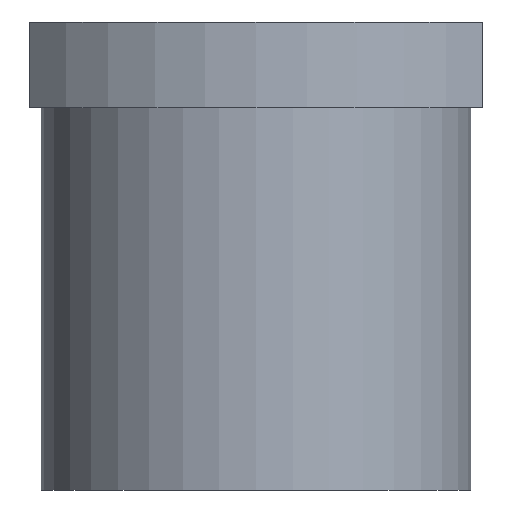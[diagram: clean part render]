
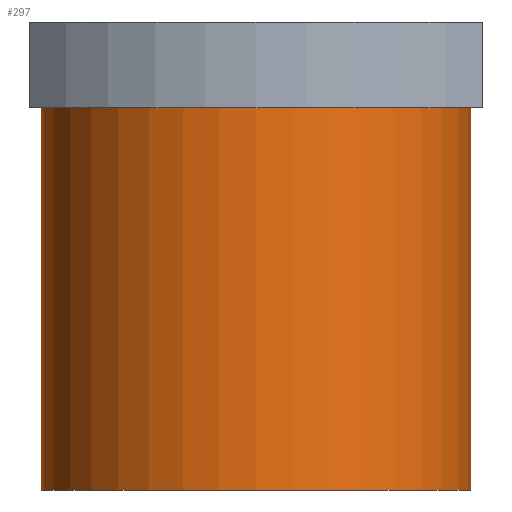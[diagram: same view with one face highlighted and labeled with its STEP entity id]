
A CAD part, left-side view. The second image highlights one B-rep face of the part: STEP entity #297.
In plain terms, the highlighted cylindrical face has radius 45 mm (diameter 90 mm), a full revolution.
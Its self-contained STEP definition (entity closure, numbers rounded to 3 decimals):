
#45=FACE_BOUND('',#101,.T.);
#74=FACE_OUTER_BOUND('',#100,.T.);
#100=EDGE_LOOP('',(#230));
#101=EDGE_LOOP('',(#231));
#146=CIRCLE('',#335,45.);
#147=CIRCLE('',#336,45.);
#170=VERTEX_POINT('',#487);
#171=VERTEX_POINT('',#489);
#198=EDGE_CURVE('',#170,#170,#146,.T.);
#199=EDGE_CURVE('',#171,#171,#147,.T.);
#230=ORIENTED_EDGE('',*,*,#198,.F.);
#231=ORIENTED_EDGE('',*,*,#199,.F.);
#285=CYLINDRICAL_SURFACE('',#334,45.);
#297=ADVANCED_FACE('',(#74,#45),#285,.T.);
#334=AXIS2_PLACEMENT_3D('',#486,#404,#405);
#335=AXIS2_PLACEMENT_3D('',#488,#406,#407);
#336=AXIS2_PLACEMENT_3D('',#490,#408,#409);
#404=DIRECTION('center_axis',(0.,0.,-1.));
#405=DIRECTION('ref_axis',(0.,1.,0.));
#406=DIRECTION('center_axis',(0.,0.,-1.));
#407=DIRECTION('ref_axis',(0.,1.,0.));
#408=DIRECTION('center_axis',(0.,0.,1.));
#409=DIRECTION('ref_axis',(0.,1.,0.));
#486=CARTESIAN_POINT('Origin',(0.,0.,-18.));
#487=CARTESIAN_POINT('',(0.,-45.,-98.));
#488=CARTESIAN_POINT('Origin',(0.,0.,-98.));
#489=CARTESIAN_POINT('',(0.,-45.,-18.));
#490=CARTESIAN_POINT('Origin',(0.,0.,-18.));
